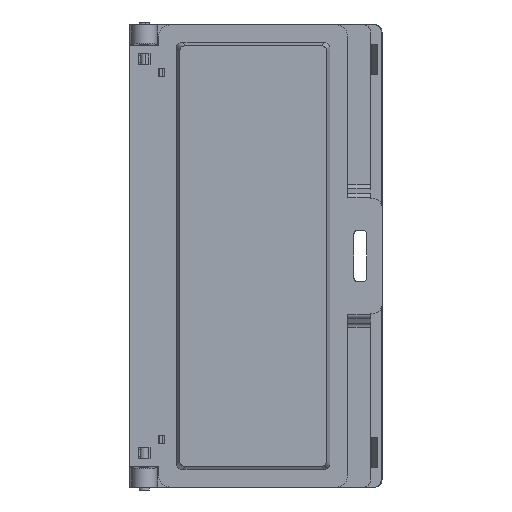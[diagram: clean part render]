
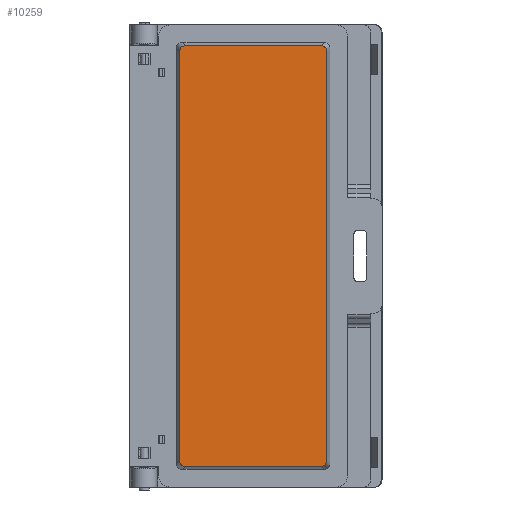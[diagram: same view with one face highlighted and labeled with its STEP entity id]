
A CAD part, front view. The second image highlights one B-rep face of the part: STEP entity #10259.
In plain terms, the highlighted planar face has unit normal (0, -1, 0) as drawn and (0, 0, 1) by its records, which use the part's own axes.
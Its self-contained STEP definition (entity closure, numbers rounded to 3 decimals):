
#35 = DIRECTION ( 'NONE',  ( 0., 1., 0. ) ) ;
#112 = DIRECTION ( 'NONE',  ( 1., 0., 0. ) ) ;
#254 = CARTESIAN_POINT ( 'NONE',  ( 23.768, -73.4, 14.3 ) ) ;
#858 = AXIS2_PLACEMENT_3D ( 'NONE', #4772, #6472, #18082 ) ;
#1070 = CARTESIAN_POINT ( 'NONE',  ( -23.768, -73.4, 14.3 ) ) ;
#1412 = LINE ( 'NONE', #8532, #14206 ) ;
#1755 = LINE ( 'NONE', #4108, #14558 ) ;
#1774 = CARTESIAN_POINT ( 'NONE',  ( -25.7, -71.468, 14.3 ) ) ;
#2272 = ORIENTED_EDGE ( 'NONE', *, *, #4935, .T. ) ;
#2288 = CARTESIAN_POINT ( 'NONE',  ( 25.7, 72.615, 14.3 ) ) ;
#2918 = ORIENTED_EDGE ( 'NONE', *, *, #7666, .F. ) ;
#3492 = CARTESIAN_POINT ( 'NONE',  ( -25.7, 72.615, 14.3 ) ) ;
#3754 = CARTESIAN_POINT ( 'NONE',  ( -23.768, -73.4, 14.3 ) ) ;
#4108 = CARTESIAN_POINT ( 'NONE',  ( 0., -73.4, 14.3 ) ) ;
#4368 = VERTEX_POINT ( 'NONE', #19053 ) ;
#4772 = CARTESIAN_POINT ( 'NONE',  ( 25.7, -73.4, 14.3 ) ) ;
#4935 = EDGE_CURVE ( 'NONE', #14000, #9533, #16872, .T. ) ;
#5658 = EDGE_CURVE ( 'NONE', #4368, #12707, #1755, .T. ) ;
#6472 = DIRECTION ( 'NONE',  ( 0., 0., -1. ) ) ;
#6964 = FACE_OUTER_BOUND ( 'NONE', #11353, .T. ) ;
#7001 = CARTESIAN_POINT ( 'NONE',  ( 25.7, -71.468, 14.3 ) ) ;
#7362 = LINE ( 'NONE', #10050, #16730 ) ;
#7666 = EDGE_CURVE ( 'NONE', #14000, #10273, #1412, .T. ) ;
#7731 = CARTESIAN_POINT ( 'NONE',  ( -25.7, -72.615, 14.3 ) ) ;
#8532 = CARTESIAN_POINT ( 'NONE',  ( 0., 73.4, 14.3 ) ) ;
#9017 = CARTESIAN_POINT ( 'NONE',  ( 23.768, 73.4, 14.3 ) ) ;
#9200 = ORIENTED_EDGE ( 'NONE', *, *, #21082, .F. ) ;
#9400 = CARTESIAN_POINT ( 'NONE',  ( -25.7, -71.468, 14.3 ) ) ;
#9533 = VERTEX_POINT ( 'NONE', #15941 ) ;
#9806 = CARTESIAN_POINT ( 'NONE',  ( 23.768, 73.4, 14.3 ) ) ;
#9920 = VERTEX_POINT ( 'NONE', #17152 ) ;
#10050 = CARTESIAN_POINT ( 'NONE',  ( -25.7, 0., 14.3 ) ) ;
#10259 = ADVANCED_FACE ( 'NONE', ( #6964 ), #16417, .F. ) ;
#10273 = VERTEX_POINT ( 'NONE', #9806 ) ;
#10312 = VECTOR ( 'NONE', #16095, 1000. ) ;
#10486 = VERTEX_POINT ( 'NONE', #1774 ) ;
#11008 = ORIENTED_EDGE ( 'NONE', *, *, #5658, .F. ) ;
#11087 = CARTESIAN_POINT ( 'NONE',  ( -24.915, -73.4, 14.3 ) ) ;
#11164 =( BOUNDED_CURVE ( )  B_SPLINE_CURVE ( 3, ( #12298, #2288, #18939, #9017 ),
 .UNSPECIFIED., .F., .F. ) 
 B_SPLINE_CURVE_WITH_KNOTS ( ( 4, 4 ),
 ( 2.39, 3.893 ),
 .UNSPECIFIED. ) 
 CURVE ( )  GEOMETRIC_REPRESENTATION_ITEM ( )  RATIONAL_B_SPLINE_CURVE ( ( 1., 0.82, 0.82, 1. ) ) 
 REPRESENTATION_ITEM ( '' )  );
#11353 = EDGE_LOOP ( 'NONE', ( #2272, #9200, #14351, #11008, #15095, #13132, #15160, #2918 ) ) ;
#11445 =( BOUNDED_CURVE ( )  B_SPLINE_CURVE ( 3, ( #254, #11949, #16959, #7001 ),
 .UNSPECIFIED., .F., .F. ) 
 B_SPLINE_CURVE_WITH_KNOTS ( ( 4, 4 ),
 ( 2.39, 3.893 ),
 .UNSPECIFIED. ) 
 CURVE ( )  GEOMETRIC_REPRESENTATION_ITEM ( )  RATIONAL_B_SPLINE_CURVE ( ( 1., 0.82, 0.82, 1. ) ) 
 REPRESENTATION_ITEM ( '' )  );
#11949 = CARTESIAN_POINT ( 'NONE',  ( 24.915, -73.4, 14.3 ) ) ;
#12298 = CARTESIAN_POINT ( 'NONE',  ( 25.7, 71.468, 14.3 ) ) ;
#12707 = VERTEX_POINT ( 'NONE', #3754 ) ;
#12769 =( BOUNDED_CURVE ( )  B_SPLINE_CURVE ( 3, ( #9400, #7731, #11087, #1070 ),
 .UNSPECIFIED., .F., .F. ) 
 B_SPLINE_CURVE_WITH_KNOTS ( ( 4, 4 ),
 ( 2.39, 3.893 ),
 .UNSPECIFIED. ) 
 CURVE ( )  GEOMETRIC_REPRESENTATION_ITEM ( )  RATIONAL_B_SPLINE_CURVE ( ( 1., 0.82, 0.82, 1. ) ) 
 REPRESENTATION_ITEM ( '' )  );
#12802 = EDGE_CURVE ( 'NONE', #9920, #10273, #11164, .T. ) ;
#12842 = CARTESIAN_POINT ( 'NONE',  ( 25.7, 0., 14.3 ) ) ;
#13132 = ORIENTED_EDGE ( 'NONE', *, *, #19268, .F. ) ;
#13328 = CARTESIAN_POINT ( 'NONE',  ( 25.7, -71.468, 14.3 ) ) ;
#13332 = EDGE_CURVE ( 'NONE', #10486, #12707, #12769, .T. ) ;
#14000 = VERTEX_POINT ( 'NONE', #16003 ) ;
#14206 = VECTOR ( 'NONE', #112, 1000. ) ;
#14351 = ORIENTED_EDGE ( 'NONE', *, *, #13332, .T. ) ;
#14558 = VECTOR ( 'NONE', #15766, 1000. ) ;
#14752 = LINE ( 'NONE', #12842, #10312 ) ;
#15095 = ORIENTED_EDGE ( 'NONE', *, *, #19580, .T. ) ;
#15160 = ORIENTED_EDGE ( 'NONE', *, *, #12802, .T. ) ;
#15164 = CARTESIAN_POINT ( 'NONE',  ( -24.915, 73.4, 14.3 ) ) ;
#15766 = DIRECTION ( 'NONE',  ( -1., 0., 0. ) ) ;
#15941 = CARTESIAN_POINT ( 'NONE',  ( -25.7, 71.468, 14.3 ) ) ;
#16003 = CARTESIAN_POINT ( 'NONE',  ( -23.768, 73.4, 14.3 ) ) ;
#16095 = DIRECTION ( 'NONE',  ( 0., -1., 0. ) ) ;
#16417 = PLANE ( 'NONE',  #858 ) ;
#16730 = VECTOR ( 'NONE', #35, 1000. ) ;
#16825 = CARTESIAN_POINT ( 'NONE',  ( -23.768, 73.4, 14.3 ) ) ;
#16872 =( BOUNDED_CURVE ( )  B_SPLINE_CURVE ( 3, ( #16825, #15164, #3492, #18477 ),
 .UNSPECIFIED., .F., .F. ) 
 B_SPLINE_CURVE_WITH_KNOTS ( ( 4, 4 ),
 ( 2.39, 3.893 ),
 .UNSPECIFIED. ) 
 CURVE ( )  GEOMETRIC_REPRESENTATION_ITEM ( )  RATIONAL_B_SPLINE_CURVE ( ( 1., 0.82, 0.82, 1. ) ) 
 REPRESENTATION_ITEM ( '' )  );
#16959 = CARTESIAN_POINT ( 'NONE',  ( 25.7, -72.615, 14.3 ) ) ;
#17152 = CARTESIAN_POINT ( 'NONE',  ( 25.7, 71.468, 14.3 ) ) ;
#18082 = DIRECTION ( 'NONE',  ( -1., 0., 0. ) ) ;
#18477 = CARTESIAN_POINT ( 'NONE',  ( -25.7, 71.468, 14.3 ) ) ;
#18939 = CARTESIAN_POINT ( 'NONE',  ( 24.915, 73.4, 14.3 ) ) ;
#19053 = CARTESIAN_POINT ( 'NONE',  ( 23.768, -73.4, 14.3 ) ) ;
#19268 = EDGE_CURVE ( 'NONE', #9920, #20036, #14752, .T. ) ;
#19580 = EDGE_CURVE ( 'NONE', #4368, #20036, #11445, .T. ) ;
#20036 = VERTEX_POINT ( 'NONE', #13328 ) ;
#21082 = EDGE_CURVE ( 'NONE', #10486, #9533, #7362, .T. ) ;
